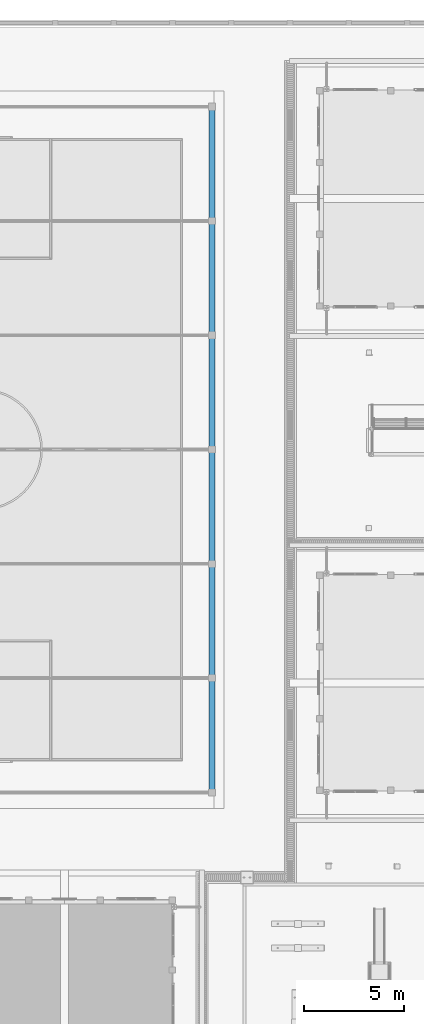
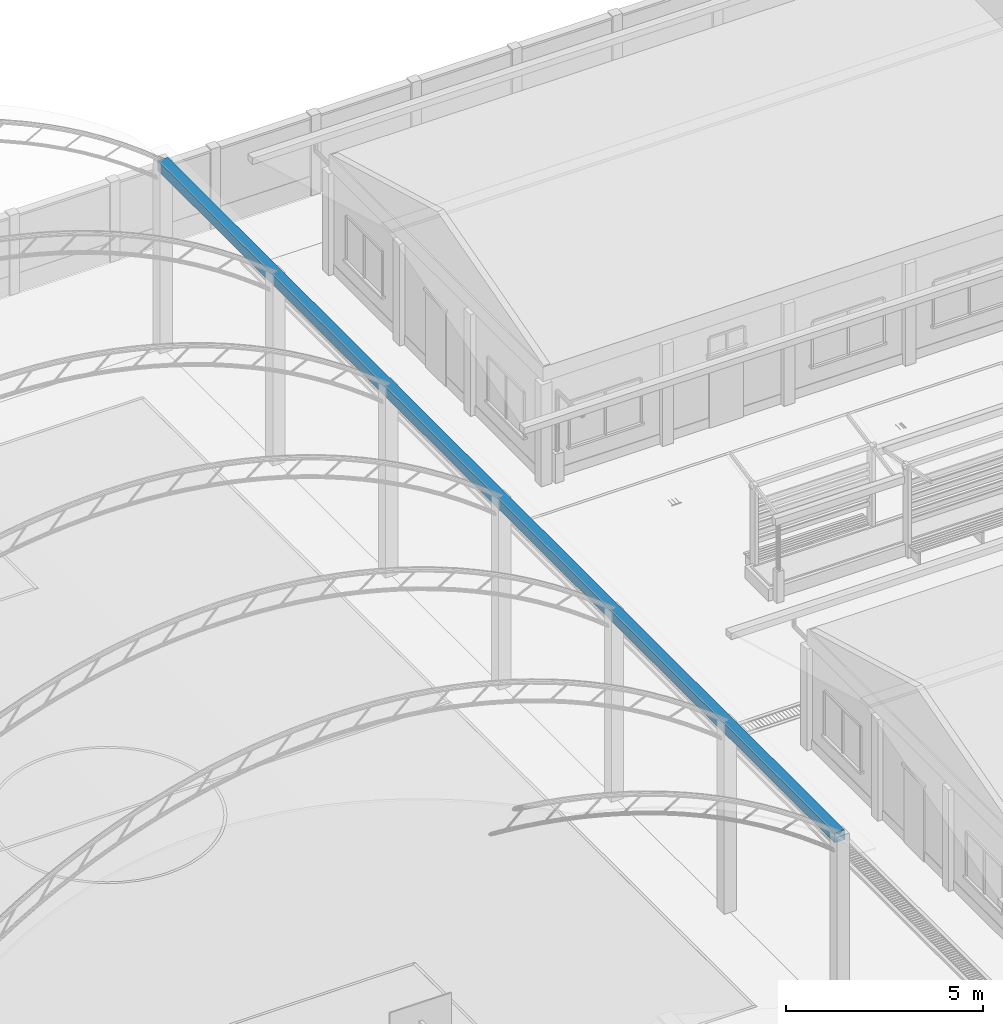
# One storey, part 21 of 151: 1 beam.
"""IFC2X3 building model written with IfcOpenShell, lengths in metres."""

from ifc_helpers import new_model, si_unit, origin, origin_with_axes, place, context, subcontext, project, spatial, faceted_brep, element, save


model = new_model("IFC2X3")

# Units and contexts
model_context = context("Model", 3, precision=1e-05, world=origin_with_axes())
body_context = subcontext(model_context, "Body", "Model", "MODEL_VIEW")
ifc_project = project(units=[si_unit("LENGTHUNIT", "METRE"), si_unit("AREAUNIT", "SQUARE_METRE"), si_unit("VOLUMEUNIT", "CUBIC_METRE"), si_unit("PLANEANGLEUNIT", "RADIAN")], contexts=[model_context])

# Site, building, storey
site_placement = place(None, origin_with_axes())
site = spatial("IfcSite", under=ifc_project, at=site_placement, Name="Predio Los Mangos - Morales, San Martín", CompositionType="ELEMENT")
building_placement = place(site_placement, origin())
building = spatial("IfcBuilding", under=site, at=building_placement, Name="Hogar de Refugio Temporal", CompositionType="ELEMENT")
storey_placement = place(building_placement, origin())
storey = spatial("IfcBuildingStorey", under=building, at=storey_placement, Name="NIVEL 1 (NPT +0.00)", CompositionType="ELEMENT", Elevation=0.0)

# Beam
beam_placement = place(storey_placement, origin())
element("IfcBeam", 1, at=beam_placement, inside=storey, Name="viga_long", ObjectType="Viga", context=body_context, shape_type="Brep", body=[
    faceted_brep([(26.45, 92.6, 5.7), (26.45, 127.0, 5.7), (26.75, 127.0, 5.7), (26.75, 92.6, 5.7), (26.45, 92.6, 6.0), (26.75, 92.6, 6.0), (26.75, 127.0, 6.0), (26.45, 127.0, 6.0)], [[[0, 1, 2, 3]], [[4, 5, 6, 7]], [[0, 3, 5, 4]], [[3, 2, 6, 5]], [[2, 1, 7, 6]], [[1, 0, 4, 7]]]),
])

save(model, "model.ifc")
